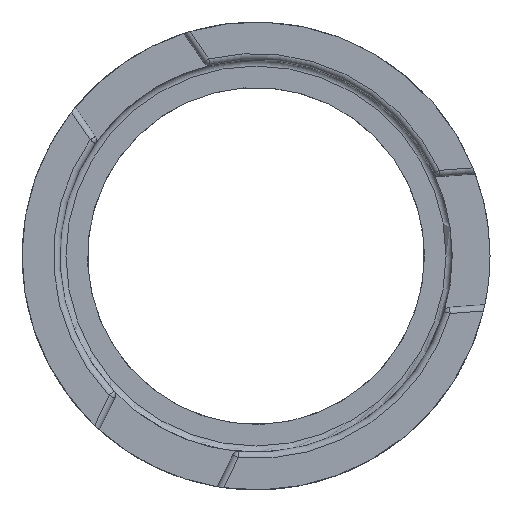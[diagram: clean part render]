
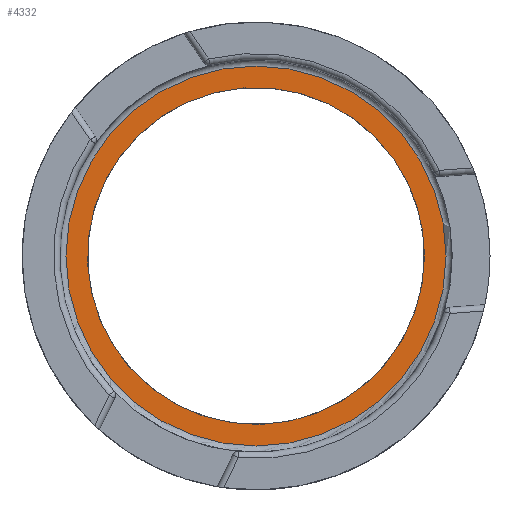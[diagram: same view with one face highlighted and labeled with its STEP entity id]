
A CAD part, top view. The second image highlights one B-rep face of the part: STEP entity #4332.
In plain terms, the highlighted planar face has unit normal (0, 0, 1).
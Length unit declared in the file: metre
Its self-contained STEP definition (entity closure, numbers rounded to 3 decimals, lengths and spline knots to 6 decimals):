
#210=PLANE('',#4615);
#1595=ORIENTED_EDGE('',*,*,#2867,.T.);
#1596=ORIENTED_EDGE('',*,*,#2868,.T.);
#2867=EDGE_CURVE('',#3422,#3422,#3637,.F.);
#2868=EDGE_CURVE('',#3423,#3423,#3638,.T.);
#3422=VERTEX_POINT('',#11233);
#3423=VERTEX_POINT('',#11235);
#3637=CIRCLE('',#4616,0.03045);
#3638=CIRCLE('',#4617,0.027);
#3787=EDGE_LOOP('',(#1595));
#3788=EDGE_LOOP('',(#1596));
#4053=FACE_BOUND('',#3787,.T.);
#4054=FACE_BOUND('',#3788,.T.);
#4332=ADVANCED_FACE('',(#4053,#4054),#210,.F.);
#4615=AXIS2_PLACEMENT_3D('',#11231,#5031,#5032);
#4616=AXIS2_PLACEMENT_3D('',#11232,#5033,#5034);
#4617=AXIS2_PLACEMENT_3D('',#11234,#5035,#5036);
#5031=DIRECTION('',(0.,0.,-1.));
#5032=DIRECTION('',(0.819,0.574,0.));
#5033=DIRECTION('',(0.,0.,-1.));
#5034=DIRECTION('',(1.,0.,0.));
#5035=DIRECTION('',(0.,0.,-1.));
#5036=DIRECTION('',(1.,0.,0.));
#11231=CARTESIAN_POINT('',(0.,0.,0.0738));
#11232=CARTESIAN_POINT('',(0.,0.,0.0738));
#11233=CARTESIAN_POINT('',(0.03045,0.,0.0738));
#11234=CARTESIAN_POINT('',(0.,0.,0.0738));
#11235=CARTESIAN_POINT('',(0.027,0.,0.0738));
